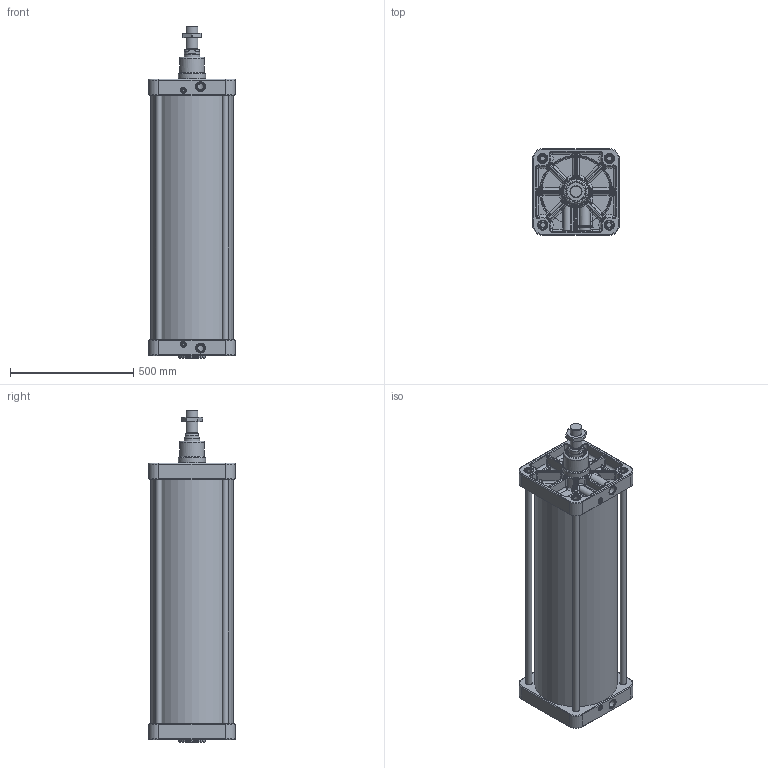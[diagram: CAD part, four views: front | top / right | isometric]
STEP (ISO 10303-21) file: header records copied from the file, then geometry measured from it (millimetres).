
FILE_DESCRIPTION(/* description */ (''),/* implementation_level */ '2;1');
FILE_NAME(/* name */ 'T:\Archivio Inventor\- 00 NUOVI STP PER SITO CON STELO CHE SI MUOVE\SERIE H - U\SERIE UDM\UDM320.---.GS.M\UDM320.900.GS.M.stp',/* time_stamp */ '2020-04-29T16:39:15+02:00',/* author */ ('carlo.corazza'),/* organization */ (''),/* preprocessor_version */ 'ST-DEVELOPER v16.5',/* originating_system */ 'Autodesk Inventor 2017',/* authorisation */ '');
FILE_SCHEMA (('AUTOMOTIVE_DESIGN { 1 0 10303 214 3 1 1 }'));
Length unit declared in the file: millimetre
Products named in the file (7): UDM320.900.GS.M-; TP; STELO-900; TA; CORPO-900; TIRANTE-900; 29.2048.000.0
Assembly tree (9 placements, depth 2):
  UDM320.900.GS.M-
    TP
    STELO-900
    TA
    TIRANTE-900  x4
    CORPO-900
    29.2048.000.0
Bounding box: 350 x 350 x 1346 mm (x, y, z)
Volume: 23029826.5 mm3; surface area: 3783392.8 mm2
Topology: 9 solids, 16 shells, 1710 faces, 3937 edges, 2221 vertices
Faces by surface type: cylinder 439, bspline 432, plane 380, torus 252, cone 115, sphere 92
Full cylindrical faces by diameter (mm): 8 x2, 9 x1, 10 x1, 11 x2, 11.2 x2, 12 x2, 12.376 x1, 13.4 x4, 14 x2, 15.8 x4, 16 x6, 20.752 x8, 24 x10, 24.5 x8, 25 x6, 30.291 x2, 36 x9, 37 x8, 40 x2, 44.8 x1, 45.835 x1, 48 x1, 62 x1, 63 x1, 64 x1, 64.293 x1, 65.8 x1, 73 x1, 75 x3, 100 x1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
Entity records: 64917 total; most frequent: CARTESIAN_POINT 27888, DIRECTION 7314, ORIENTED_EDGE 7088, EDGE_CURVE 3544, AXIS2_PLACEMENT_3D 3113, VERTEX_POINT 2134, EDGE_LOOP 1966, FACE_OUTER_BOUND 1683
